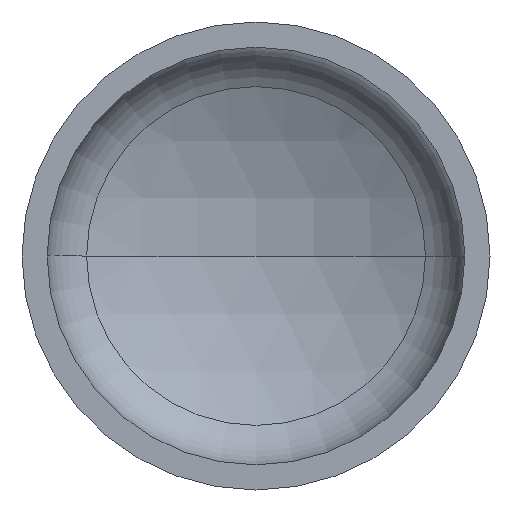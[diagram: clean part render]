
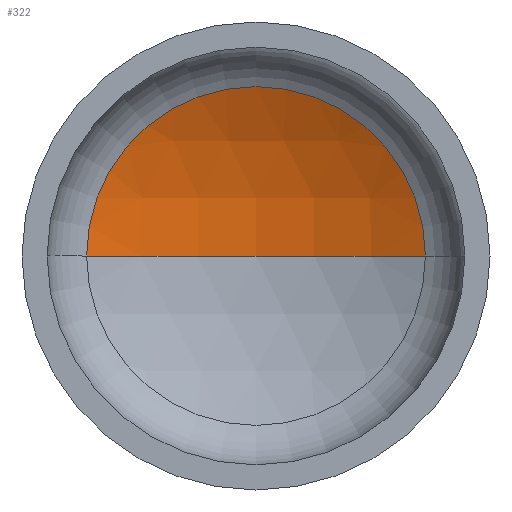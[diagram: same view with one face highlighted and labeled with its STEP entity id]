
A CAD part, front view. The second image highlights one B-rep face of the part: STEP entity #322.
In plain terms, the highlighted spherical face has radius 1040 mm.
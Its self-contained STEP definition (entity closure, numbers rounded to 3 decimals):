
#8 = EDGE_LOOP ( 'NONE', ( #44, #57, #17 ) ) ;
#11 = AXIS2_PLACEMENT_3D ( 'NONE', #146, #362, #152 ) ;
#15 = VERTEX_POINT ( 'NONE', #376 ) ;
#17 = ORIENTED_EDGE ( 'NONE', *, *, #318, .T. ) ;
#28 = DIRECTION ( 'NONE',  ( 1., 0., 0. ) ) ;
#41 = DIRECTION ( 'NONE',  ( 0., -1., 0. ) ) ;
#44 = ORIENTED_EDGE ( 'NONE', *, *, #251, .F. ) ;
#57 = ORIENTED_EDGE ( 'NONE', *, *, #334, .T. ) ;
#58 = CARTESIAN_POINT ( 'NONE',  ( 0., -629.133, 0. ) ) ;
#95 = DIRECTION ( 'NONE',  ( 0., 0., -1. ) ) ;
#98 = DIRECTION ( 'NONE',  ( -1., 0., 0. ) ) ;
#103 = VERTEX_POINT ( 'NONE', #329 ) ;
#146 = CARTESIAN_POINT ( 'NONE',  ( 0., -629.133, 0. ) ) ;
#148 = DIRECTION ( 'NONE',  ( 0., 0., 1. ) ) ;
#150 = CARTESIAN_POINT ( 'NONE',  ( 0., -629.133, 0. ) ) ;
#152 = DIRECTION ( 'NONE',  ( -1., 0., 0. ) ) ;
#202 = AXIS2_PLACEMENT_3D ( 'NONE', #150, #148, #28 ) ;
#225 = CIRCLE ( 'NONE', #401, 1040. ) ;
#233 = FACE_OUTER_BOUND ( 'NONE', #8, .T. ) ;
#251 = EDGE_CURVE ( 'NONE', #299, #15, #252, .T. ) ;
#252 = CIRCLE ( 'NONE', #202, 1040. ) ;
#281 = CARTESIAN_POINT ( 'NONE',  ( 0., 410.867, 0. ) ) ;
#293 = SPHERICAL_SURFACE ( 'NONE', #11, 1040. ) ;
#299 = VERTEX_POINT ( 'NONE', #281 ) ;
#302 = CIRCLE ( 'NONE', #339, 470.476 ) ;
#310 = CARTESIAN_POINT ( 'NONE',  ( 0., 298.365, 0. ) ) ;
#318 = EDGE_CURVE ( 'NONE', #103, #15, #302, .T. ) ;
#322 = ADVANCED_FACE ( 'NONE', ( #233 ), #293, .F. ) ;
#329 = CARTESIAN_POINT ( 'NONE',  ( 470.476, 298.365, 0. ) ) ;
#334 = EDGE_CURVE ( 'NONE', #299, #103, #225, .T. ) ;
#339 = AXIS2_PLACEMENT_3D ( 'NONE', #310, #41, #343 ) ;
#343 = DIRECTION ( 'NONE',  ( 1., 0., 0. ) ) ;
#362 = DIRECTION ( 'NONE',  ( 0., 0., -1. ) ) ;
#376 = CARTESIAN_POINT ( 'NONE',  ( -470.476, 298.365, 0. ) ) ;
#401 = AXIS2_PLACEMENT_3D ( 'NONE', #58, #95, #98 ) ;
